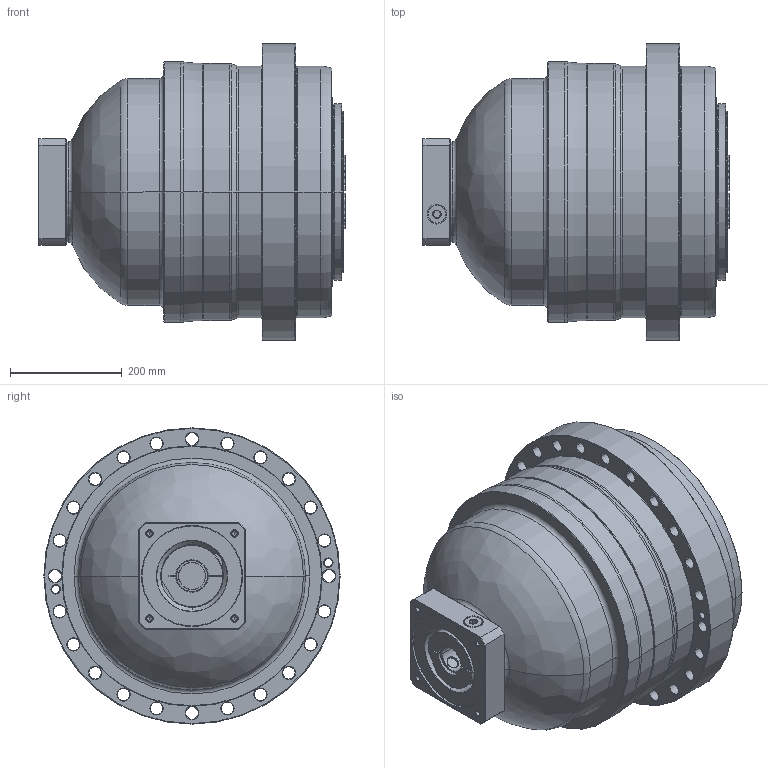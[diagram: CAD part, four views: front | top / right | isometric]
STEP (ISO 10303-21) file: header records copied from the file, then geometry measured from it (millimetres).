
FILE_DESCRIPTION((''),'2;1');
FILE_NAME('APC450_3ST_48-P0409B10201_ASM','2018-11-01T',('d01226'),(''),'PRO/ENGINEER BY PARAMETRIC TECHNOLOGY CORPORATION, 2015240','PRO/ENGINEER BY PARAMETRIC TECHNOLOGY CORPORATION, 2015240','');
FILE_SCHEMA(('CONFIG_CONTROL_DESIGN'));
Length unit declared in the file: millimetre
Products named in the file (9): P0276201003; P03572B0103; P1366A00301; P0503B00016; P0912703001; P1222200001; P0409B10201; 21711426021; APC450_3ST_48-P0409B10201_ASM
Assembly tree (8 placements, depth 2):
  APC450_3ST_48-P0409B10201_ASM
    P0276201003
    P03572B0103
    P1366A00301
    P0503B00016
    P0912703001
    P1222200001
    P0409B10201
    21711426021
Bounding box: 548.6 x 530 x 530 mm (x, y, z)
Volume: 79342719.5 mm3; surface area: 2143026.5 mm2
Topology: 9 solids, 34 shells, 983 faces, 2443 edges, 1495 vertices
Faces by surface type: cone 334, cylinder 299, plane 182, torus 154, bspline 14
Entity records: 35863 total; most frequent: CARTESIAN_POINT 12189, DIRECTION 5285, ORIENTED_EDGE 4688, EDGE_CURVE 2393, AXIS2_PLACEMENT_3D 2298, VERTEX_POINT 1495, CIRCLE 1300, EDGE_LOOP 1116
